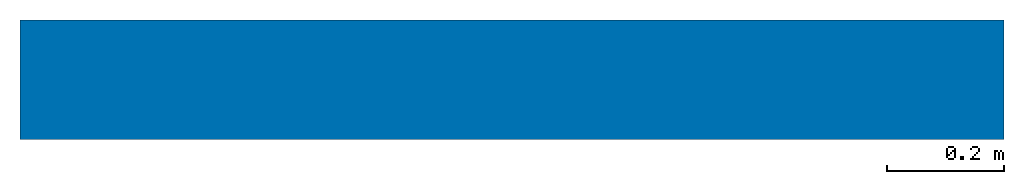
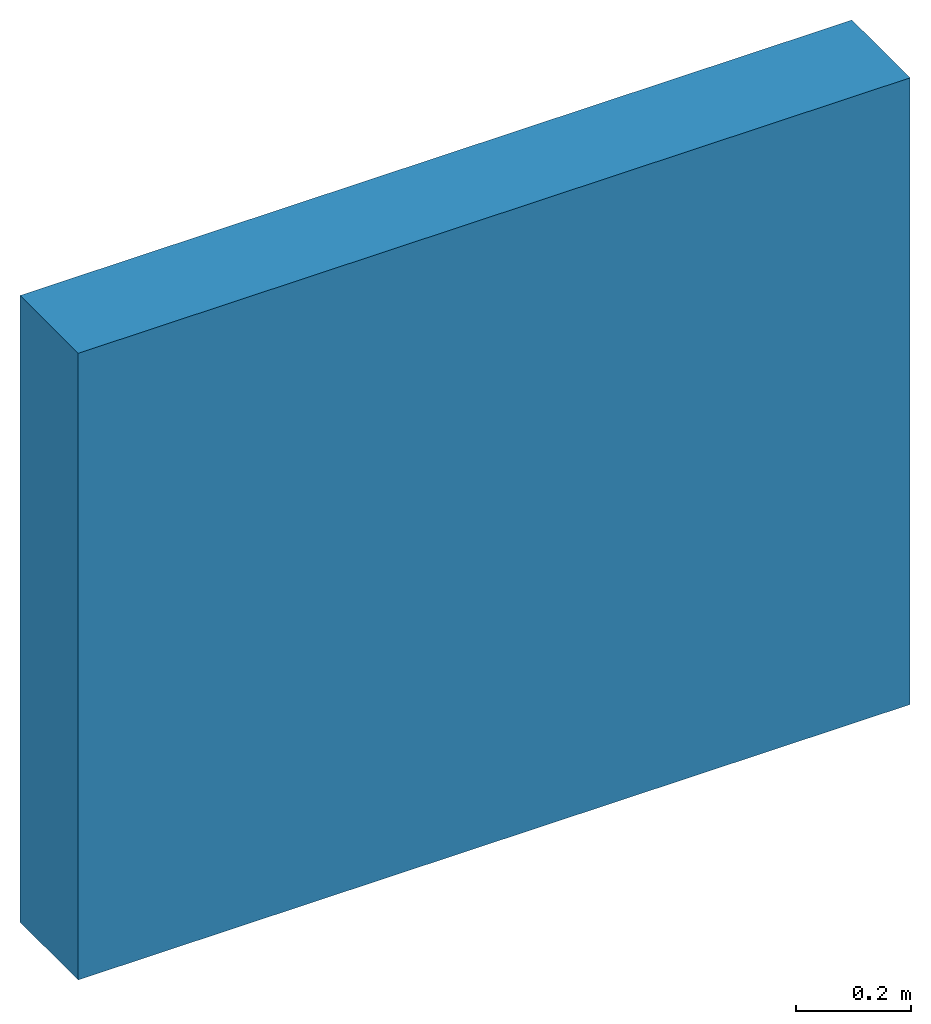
# One storey: 1 wall.
"""IFC2X3 building model written with IfcOpenShell, lengths in feet."""

from ifc_helpers import new_model, entity, si_unit, converted_unit, derived_unit, direction, frame, frame_2d, origin, place, context, subcontext, project, spatial, rectangle, extrude, material, layer, layer_set, layer_usage, type_object, element, save


model = new_model("IFC2X3")

# Units and contexts
model_context = context("Model", 3, precision=0.0001, world=origin(), true_north=direction((6.12303176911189e-17, 1.0)))
body_context = subcontext(model_context, "Body", "Model", "MODEL_VIEW")
ifc_project = project(units=[converted_unit("LENGTHUNIT", "FOOT", entity("IfcRatioMeasure", 0.3048), si_unit("LENGTHUNIT", "METRE"), dimensions=[1, 0, 0, 0, 0, 0, 0]), converted_unit("AREAUNIT", "SQUARE FOOT", entity("IfcRatioMeasure", 0.09290304), si_unit("AREAUNIT", "SQUARE_METRE"), dimensions=[2, 0, 0, 0, 0, 0, 0]), converted_unit("VOLUMEUNIT", "CUBIC FOOT", entity("IfcRatioMeasure", 0.028316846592), si_unit("VOLUMEUNIT", "CUBIC_METRE"), dimensions=[3, 0, 0, 0, 0, 0, 0]), converted_unit("PLANEANGLEUNIT", "DEGREE", entity("IfcRatioMeasure", 0.0174532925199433), si_unit("PLANEANGLEUNIT", "RADIAN"), dimensions=[0, 0, 0, 0, 0, 0, 0]), si_unit("MASSUNIT", "GRAM", prefix="KILO"), derived_unit("MASSDENSITYUNIT", [(si_unit("MASSUNIT", "GRAM", prefix="KILO"), 1), (si_unit("LENGTHUNIT", "METRE"), -3)]), si_unit("TIMEUNIT", "SECOND"), si_unit("FREQUENCYUNIT", "HERTZ"), si_unit("THERMODYNAMICTEMPERATUREUNIT", "DEGREE_CELSIUS"), derived_unit("THERMALTRANSMITTANCEUNIT", [(si_unit("MASSUNIT", "GRAM", prefix="KILO"), 1), (si_unit("THERMODYNAMICTEMPERATUREUNIT", "KELVIN"), -1), (si_unit("TIMEUNIT", "SECOND"), -3)]), derived_unit("VOLUMETRICFLOWRATEUNIT", [(si_unit("LENGTHUNIT", "METRE"), 3), (si_unit("TIMEUNIT", "SECOND"), -1)]), si_unit("ELECTRICCURRENTUNIT", "AMPERE"), si_unit("ELECTRICVOLTAGEUNIT", "VOLT"), si_unit("POWERUNIT", "WATT"), si_unit("FORCEUNIT", "NEWTON"), si_unit("ILLUMINANCEUNIT", "LUX"), si_unit("LUMINOUSFLUXUNIT", "LUMEN"), si_unit("LUMINOUSINTENSITYUNIT", "CANDELA"), derived_unit("USERDEFINED", [(si_unit("MASSUNIT", "GRAM", prefix="KILO"), -1), (si_unit("LENGTHUNIT", "METRE"), -2), (si_unit("TIMEUNIT", "SECOND"), 3), (si_unit("LUMINOUSFLUXUNIT", "LUMEN"), 1)]), derived_unit("LINEARVELOCITYUNIT", [(si_unit("LENGTHUNIT", "METRE"), 1), (si_unit("TIMEUNIT", "SECOND"), -1)]), si_unit("PRESSUREUNIT", "PASCAL"), derived_unit("USERDEFINED", [(si_unit("LENGTHUNIT", "METRE"), -2), (si_unit("MASSUNIT", "GRAM", prefix="KILO"), 1), (si_unit("TIMEUNIT", "SECOND"), -2)])], contexts=[model_context])

# Site, building, storey
site_placement = place(None, origin())
site = spatial("IfcSite", under=ifc_project, at=site_placement, Name="Default", CompositionType="ELEMENT")
building_placement = place(site_placement, origin())
building = spatial("IfcBuilding", under=site, at=building_placement, CompositionType="ELEMENT")
storey_placement = place(building_placement, origin())
storey = spatial("IfcBuildingStorey", under=building, at=storey_placement, Name="Level 1", CompositionType="ELEMENT", Elevation=0.0)

# Wall
ifc_material = material(Name="Default Wall")
ifc_layer = layer(ifc_material, 0.666666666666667)
ifc_layer_set = layer_set([ifc_layer], Name="Basic Wall:Generic - 8\"")
ifc_layer_usage = layer_usage(ifc_layer_set, "AXIS2", "NEGATIVE", 0.333333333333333)
wall_type = type_object("IfcWallType", Name="Basic Wall:Generic - 8\"", PredefinedType="STANDARD", material=ifc_layer_set)
wall_placement = place(storey_placement, frame((-4.51820742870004, 8.07151339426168, 0.0)))
element("IfcWallStandardCase", 1, at=wall_placement, inside=storey, type_object=wall_type, material=ifc_layer_usage, Name="Basic Wall:Generic - 8\"", ObjectType="Basic Wall:Generic - 8\"", context=body_context, shape_type="SweptSolid", body=[
    extrude(rectangle(XDim=5.5, YDim=0.666666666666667, at=frame_2d((2.75, 4.16333634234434e-16), x_axis=(-1.0, 0.0))), origin(), (0.0, 0.0, 1.0), 4.38004442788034),
])

save(model, "model.ifc")
